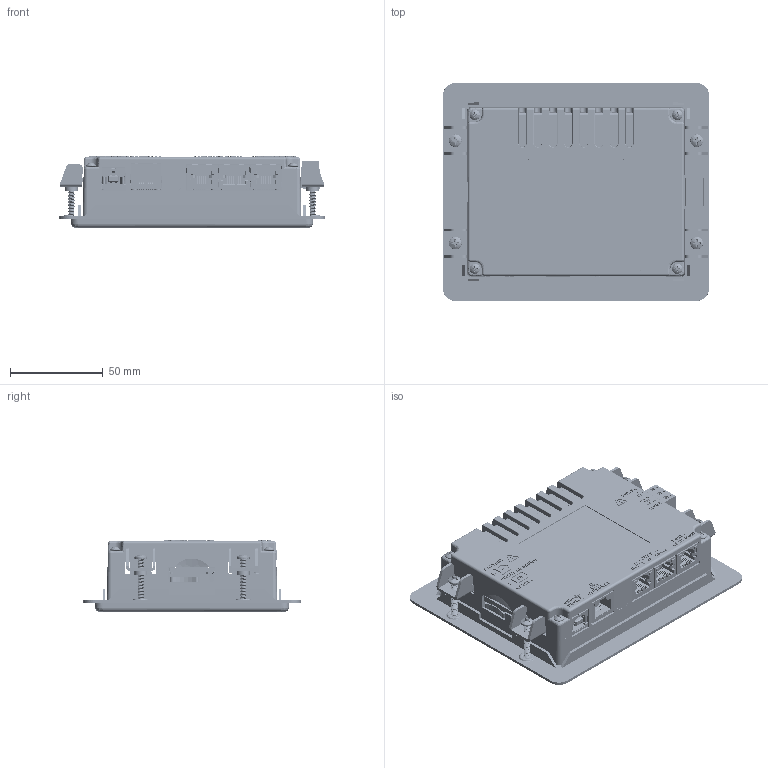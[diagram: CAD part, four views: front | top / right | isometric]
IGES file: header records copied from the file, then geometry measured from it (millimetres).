
Start section: C
Global section: file name: CR100004.igs; native system: By Siemens PLM Incorporated; preprocessor: XPlus GENERIC/IGES 20.0.26; author: Author; organization: Title; date: 20171221.064611; units: millimetre
Bounding box: 143.51 x 117.47 x 38.61 mm (x, y, z)
Surface area: 248817.6 mm2 (no closed solid volume)
Topology: 0 solids, 0 shells, 11824 faces, 74681 edges, 74652 vertices
Faces by surface type: bspline 11824
